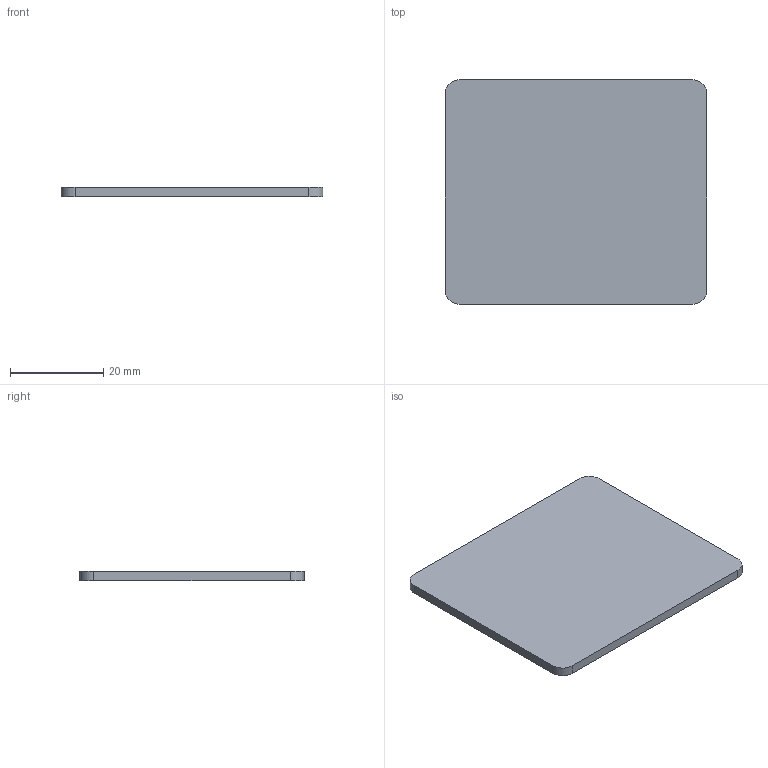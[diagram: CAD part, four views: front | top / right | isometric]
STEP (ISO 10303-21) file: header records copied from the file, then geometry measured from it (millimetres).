
FILE_DESCRIPTION(('Open CASCADE Model'),'2;1');
FILE_NAME('Open CASCADE Shape Model','2026-11-05T01:47:42',('Author'),( 'Open CASCADE'),'Open CASCADE STEP processor 7.8','Open CASCADE 7.8' ,'Unknown');
FILE_SCHEMA(('AUTOMOTIVE_DESIGN { 1 0 10303 214 1 1 1 1 }'));
Length unit declared in the file: millimetre
Products named in the file (1): Open CASCADE STEP translator 7.8 17
Bounding box: 56 x 48 x 2 mm (x, y, z)
Volume: 5360.5 mm3; surface area: 5766.2 mm2
Topology: 1 solids, 1 shells, 10 faces, 24 edges, 16 vertices
Faces by surface type: plane 6, cylinder 4
Entity records: 630 total; most frequent: CARTESIAN_POINT 123, DIRECTION 98, LINE 56, VECTOR 56, ORIENTED_EDGE 48, PCURVE 48, DEFINITIONAL_REPRESENTATION 48, EDGE_CURVE 24
